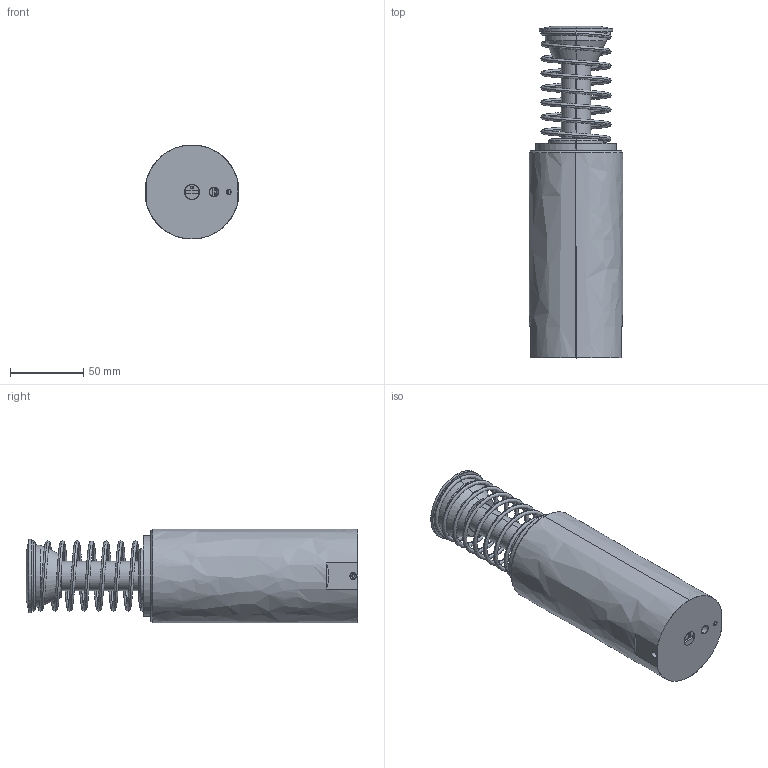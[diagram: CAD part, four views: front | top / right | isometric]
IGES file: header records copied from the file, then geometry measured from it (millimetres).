
Start section: SolidWorks IGES file using analytic representation for surfaces
Bounding box: 64 x 226 x 64 mm (x, y, z)
Surface area: 66639.9 mm2 (no closed solid volume)
Topology: 0 solids, 0 shells, 96 faces, 1918 edges, 1916 vertices
Faces by surface type: revolution 56, bspline 40
